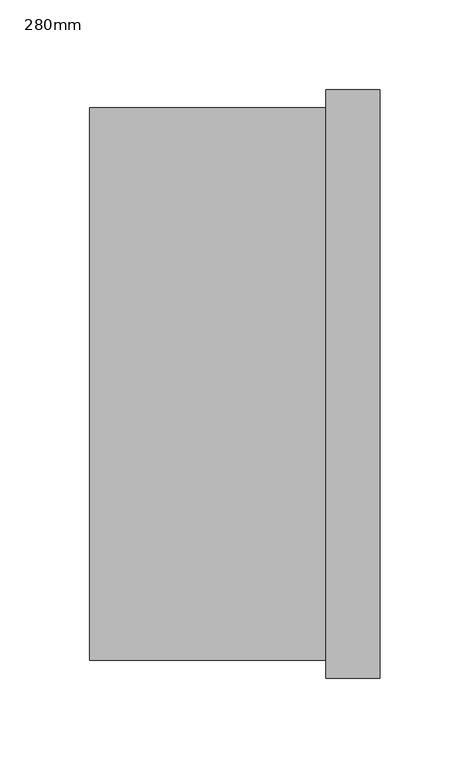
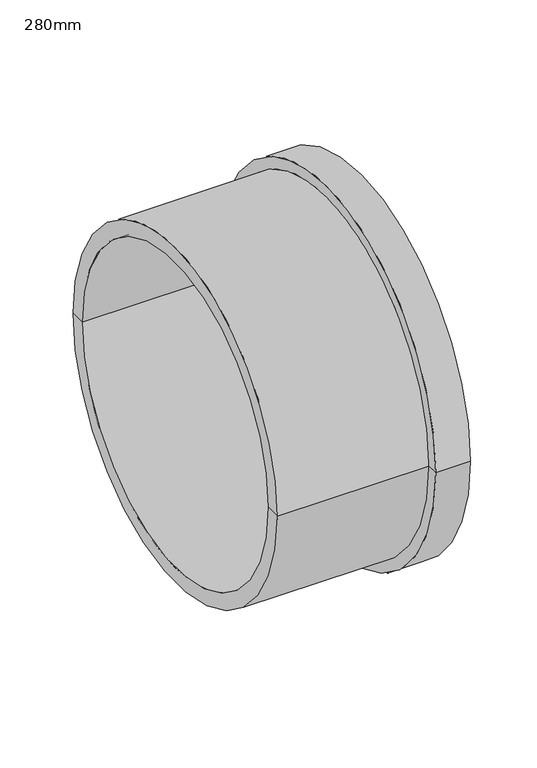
"""IFC4 building model written with IfcOpenShell, lengths in millimetres: pipe fitting geometry, Durapipe_PipeFitting_PVC_StubFlange : 280mm."""

import ifcopenshell
import ifcopenshell.guid

model = None  # the IFC model being written
_history = None  # IfcOwnerHistory: only IFC2X3 demands one
_inside = {}  # id of a spatial element -> (the spatial element, [elements in it])
_under = {}  # id of a project, library or spatial element -> (it, [spatial elements below it])
_declared = {}  # id of a project -> (the project, [libraries it declares])
_typed = {}  # id of a type object -> (the type object, [elements of that type])
_made_of = {}  # id of a material, layer set ... -> (it, [elements and type objects made of it])


def new_model(schema):
    """Start an empty IFC model of exactly this schema.

    Asked for "IFC4X3", IfcOpenShell would pick the latest addendum, in which some entities
    have other attributes; the version numbers below select the first issue.
    IFC2X3 requires an IfcOwnerHistory on every rooted entity: one is made here for all.
    """
    global model, _history
    if schema == "IFC4X3":
        model = ifcopenshell.file(schema_version=(4, 3, 0, 0))
    else:
        model = ifcopenshell.file(schema=schema)
    _inside.clear()
    _under.clear()
    _declared.clear()
    _typed.clear()
    _made_of.clear()
    _history = None
    if model.schema == "IFC2X3":
        org = make("IfcOrganization", Name="unknown")
        user = make(
            "IfcPersonAndOrganization",
            ThePerson=make("IfcPerson", FamilyName="unknown"),
            TheOrganization=org,
        )
        app = make(
            "IfcApplication",
            ApplicationDeveloper=org,
            Version="unknown",
            ApplicationFullName="unknown",
            ApplicationIdentifier="unknown",
        )
        _history = make(
            "IfcOwnerHistory",
            OwningUser=user,
            OwningApplication=app,
            ChangeAction="ADDED",
            CreationDate=0,
        )
    return model


def make(cls, **values):
    """One entity of the class cls with the attributes given. An attribute that is None is left unset."""
    return model.create_entity(
        cls, **{name: value for name, value in values.items() if value is not None}
    )


def rooted(cls, **values):
    """An entity with a GlobalId (a new one), such as an element, a storey or a relation."""
    return make(cls, GlobalId=ifcopenshell.guid.new(), OwnerHistory=_history, **values)


def si_unit(unit_type, name, prefix=None):
    """IfcSIUnit, for example si_unit("LENGTHUNIT", "METRE", prefix="MILLI")."""
    return make("IfcSIUnit", UnitType=unit_type, Prefix=prefix, Name=name)


def assignment(units):
    """IfcUnitAssignment: the units of a project."""
    return None if units is None else make("IfcUnitAssignment", Units=units)


def point(xyz):
    """IfcCartesianPoint."""
    return None if xyz is None else make("IfcCartesianPoint", Coordinates=xyz)


def direction(xyz):
    """IfcDirection."""
    return None if xyz is None else make("IfcDirection", DirectionRatios=xyz)


def frame(location, z_axis=None, x_axis=None):
    """IfcAxis2Placement3D, a coordinate frame: its origin and axes. An axis left out is left unset."""
    return make(
        "IfcAxis2Placement3D",
        Location=point(location),
        Axis=direction(z_axis),
        RefDirection=direction(x_axis),
    )


def origin():
    """The frame at (0, 0, 0) with its axes left unset."""
    return frame((0.0, 0.0, 0.0))


def place(relative_to, where):
    """IfcLocalPlacement: puts the frame where relative to a parent placement (None: the world)."""
    return make(
        "IfcLocalPlacement", PlacementRelTo=relative_to, RelativePlacement=where
    )


def context(
    kind, dimensions, precision=None, world=None, true_north=None, identifier=None
):
    """IfcGeometricRepresentationContext, for example the 3D "Model" context."""
    return make(
        "IfcGeometricRepresentationContext",
        ContextIdentifier=identifier,
        ContextType=kind,
        CoordinateSpaceDimension=dimensions,
        Precision=precision,
        WorldCoordinateSystem=world,
        TrueNorth=true_north,
    )


def project(units=None, contexts=None):
    """IfcProject with its units and contexts."""
    return rooted(
        "IfcProject",
        Name="project",
        RepresentationContexts=contexts,
        UnitsInContext=assignment(units),
    )


def spatial(cls, under=None, at=None, **own):
    """A site, building, storey or space (cls), placed at a placement, below another one or the project."""
    s = rooted(cls, ObjectPlacement=at, **own)
    if under is not None:
        _under.setdefault(under.id(), (under, []))[1].append(s)
    return s


def polyline(points):
    """IfcPolyline through the points."""
    return make("IfcPolyline", Points=[point(p) for p in points])


def circle_curve(where, radius):
    """IfcCircle in the frame where."""
    return make("IfcCircle", Position=where, Radius=radius)


def shape(context_of_items, identifier, shape_type, items):
    """IfcShapeRepresentation: the items that make up one representation, for example the "Body"."""
    return make(
        "IfcShapeRepresentation",
        ContextOfItems=context_of_items,
        RepresentationIdentifier=identifier,
        RepresentationType=shape_type,
        Items=items,
    )


def source(mapping_origin, context_of_items, identifier, shape_type, items):
    """IfcRepresentationMap: a shape defined once, which mapped items show again and again."""
    return make(
        "IfcRepresentationMap",
        MappingOrigin=mapping_origin,
        MappedRepresentation=shape(context_of_items, identifier, shape_type, items),
    )


def transform(
    local_origin,
    x_axis=None,
    y_axis=None,
    z_axis=None,
    scale=None,
    scale2=None,
    scale3=None,
    uniform=True,
):
    """IfcCartesianTransformationOperator3D, or its non-uniform kind. x_axis, y_axis, z_axis: its Axis1, 2, 3."""
    if uniform:
        return make(
            "IfcCartesianTransformationOperator3D",
            Axis1=direction(x_axis),
            Axis2=direction(y_axis),
            LocalOrigin=point(local_origin),
            Scale=scale,
            Axis3=direction(z_axis),
        )
    return make(
        "IfcCartesianTransformationOperator3DnonUniform",
        Axis1=direction(x_axis),
        Axis2=direction(y_axis),
        LocalOrigin=point(local_origin),
        Scale=scale,
        Axis3=direction(z_axis),
        Scale2=scale2,
        Scale3=scale3,
    )


def mapped(mapping_source, mapping_target):
    """IfcMappedItem: shows the shape of a source again, moved by a transform."""
    return make(
        "IfcMappedItem", MappingSource=mapping_source, MappingTarget=mapping_target
    )


def made_of(thing, what):
    """Note that an element or type object is made of a material, layer set ...; save() writes the relation."""
    if what is not None:
        _made_of.setdefault(what.id(), (what, []))[1].append(thing)
    return thing


def element(
    cls,
    number,
    at=None,
    inside=None,
    cuts=None,
    type_object=None,
    material=None,
    context=None,
    identifier="Body",
    shape_type=None,
    held_by="IfcProductDefinitionShape",
    body=None,
    shapes=None,
    **own,
):
    """One element of the class cls, such as IfcWall. Its Tag is "e" and its number.

    at: its placement. inside: the storey or other place that contains it. cuts: it is an
    opening in that element (IfcRelVoidsElement). A single representation is given by context,
    identifier, shape_type and body (its items); several are given by shapes. held_by: the class
    of the entity that holds the representations. save() writes the other relations.
    """
    e = rooted(cls, Tag="e%d" % number, ObjectPlacement=at, **own)
    if body is not None:
        shapes = [shape(context, identifier, shape_type, body)]
    if shapes is not None:
        e.Representation = make(held_by, Representations=shapes)
    if inside is not None:
        _inside.setdefault(inside.id(), (inside, []))[1].append(e)
    if cuts is not None:
        rooted(
            "IfcRelVoidsElement", RelatingBuildingElement=cuts, RelatedOpeningElement=e
        )
    if type_object is not None:
        _typed.setdefault(type_object.id(), (type_object, []))[1].append(e)
    return made_of(e, material)


def aggregate(whole, parts):
    """IfcRelAggregates: a whole, such as a stair, and the parts it consists of."""
    return rooted("IfcRelAggregates", RelatingObject=whole, RelatedObjects=parts)


def save(model, path):
    """Write the relations noted so far, then the file.

    IfcRelAggregates (storeys below a building ...), IfcRelContainedInSpatialStructure (elements
    in a storey), IfcRelDefinesByType, IfcRelAssociatesMaterial and IfcRelDeclares: one each for
    every whole, place, type object, material and project.
    """
    for whole, parts in _under.values():
        aggregate(whole, parts)
    for where, things in _inside.values():
        rooted(
            "IfcRelContainedInSpatialStructure",
            RelatedElements=things,
            RelatingStructure=where,
        )
    for kind, things in _typed.values():
        rooted("IfcRelDefinesByType", RelatedObjects=things, RelatingType=kind)
    for what, things in _made_of.values():
        rooted("IfcRelAssociatesMaterial", RelatedObjects=things, RelatingMaterial=what)
    for by, libraries in _declared.values():
        rooted("IfcRelDeclares", RelatingContext=by, RelatedDefinitions=libraries)
    model.write(path)


def plane_surface(at):
    """IfcPlane: the flat surface through the origin of the frame at, square to its z axis."""
    return make("IfcPlane", Position=at)


def cylinder_surface(at, radius):
    """IfcCylindricalSurface: all points at the distance radius from the z axis of the frame at."""
    return make("IfcCylindricalSurface", Position=at, Radius=radius)


def revolved_surface(curve, axis_point, axis_direction):
    """IfcSurfaceOfRevolution: the curve turned about the line through axis_point along axis_direction."""
    return make(
        "IfcSurfaceOfRevolution",
        SweptCurve=make("IfcArbitraryOpenProfileDef", ProfileType="CURVE", Curve=curve),
        AxisPosition=make("IfcAxis1Placement", Location=point(axis_point), Axis=direction(axis_direction)),
    )


def advanced_brep(points, edges, surfaces, faces):
    """IfcAdvancedBrep: a solid bounded by faces that lie on surfaces and meet in shared edges.

    An edge is (start, end): straight between two places in points (the first is 0);
    or (start, end, curve); or (start, end, curve, False) where it runs against its curve.
    A face is (place in surfaces, loops), or (place, loops, False) where it looks against
    its surface's normal. A loop lists edges by number (the first is 1), with a minus sign
    where the edge is run from its end to its start. The first loop is the outer one.
    """
    corners = [point(p) for p in points]
    vertices = [make("IfcVertexPoint", VertexGeometry=c) for c in corners]
    made = []
    for start, end, *more in edges:
        made.append(
            make(
                "IfcEdgeCurve",
                EdgeStart=vertices[start],
                EdgeEnd=vertices[end],
                EdgeGeometry=more[0] if more else make("IfcPolyline", Points=[corners[start], corners[end]]),
                SameSense=more[1] if len(more) > 1 else True,
            )
        )
    hull = []
    for where, loops, *sense in faces:
        bounds = []
        for j, loop in enumerate(loops):
            ring = [make("IfcOrientedEdge", EdgeElement=made[abs(k) - 1], Orientation=k > 0) for k in loop]
            bounds.append(
                make(
                    "IfcFaceOuterBound" if j == 0 else "IfcFaceBound",
                    Bound=make("IfcEdgeLoop", EdgeList=ring),
                    Orientation=True,
                )
            )
        hull.append(make("IfcAdvancedFace", Bounds=bounds, FaceSurface=surfaces[where], SameSense=sense[0] if sense else True))
    return make("IfcAdvancedBrep", Outer=make("IfcClosedShell", CfsFaces=hull))


def pipe_fitting_280mm_290d82b5(model_context):
    return source(origin(), model_context, "Body", "AdvancedBrep", [
        advanced_brep(
        [(80.75, -163.5, 0.0), (80.75, 163.5, 0.0), (80.75, 160.0, 0.0), (80.75, -160.0, 0.0), (80.75, 125.0, 0.0), (80.75, -125.0, 0.0), (80.75, -156.2720779, 0.0), (80.75, 156.2720779, 0.0), (50.75, -163.5, 0.0), (50.75, 163.5, 0.0), (50.75, -153.5, 0.0), (50.75, 153.5, 0.0), (-80.75, -153.5, 0.0), (-80.75, 153.5, 0.0), (-80.75, -140.0, 0.0), (-80.75, 140.0, 0.0), (66.25, 125.0, 0.0), (66.25, -125.0, 0.0), (66.25, -140.0, 0.0), (66.25, 140.0, 0.0), (80.75, 157.5147186, 0.0), (79.25, 156.8933983, 0.0), (79.25, -156.8933983, 0.0), (80.75, -157.5147186, 0.0), (79.25, -158.136039, 0.0), (79.25, 158.136039, 0.0), (80.75, -158.7573593, 0.0), (80.75, 158.7573593, 0.0), (79.25, -159.3786797, 0.0), (79.25, 159.3786797, 0.0)],
        [
            (0, 1, circle_curve(frame((80.75, 0.0, 0.0), z_axis=(1.0, 0.0, 0.0), x_axis=(0.0, 1.0, 0.0)), 163.5)),
            (1, 2),
            (2, 3, circle_curve(frame((80.75, 0.0, 0.0), z_axis=(-1.0, 0.0, 0.0), x_axis=(0.0, -1.0, 0.0)), 160.0)),
            (3, 0),
            (4, 5, circle_curve(frame((80.75, 0.0, 0.0), z_axis=(-1.0, 0.0, 0.0), x_axis=(0.0, 1.0, 0.0)), 125.0)),
            (5, 6),
            (6, 7, circle_curve(frame((80.75, 0.0, 0.0), z_axis=(1.0, 0.0, 0.0), x_axis=(0.0, -1.0, 0.0)), 156.2720779)),
            (7, 4),
            (1, 0, circle_curve(frame((80.75, 0.0, 0.0), z_axis=(1.0, 0.0, 0.0), x_axis=(0.0, 1.0, 0.0)), 163.5)),
            (3, 2, circle_curve(frame((80.75, 0.0, 0.0), z_axis=(-1.0, 0.0, 0.0), x_axis=(0.0, 1.0, 0.0)), 160.0)),
            (5, 4, circle_curve(frame((80.75, 0.0, 0.0), z_axis=(-1.0, 0.0, 0.0), x_axis=(0.0, 1.0, 0.0)), 125.0)),
            (7, 6, circle_curve(frame((80.75, 0.0, 0.0), z_axis=(1.0, 0.0, 0.0), x_axis=(0.0, 1.0, 0.0)), 156.2720779)),
            (0, 8),
            (8, 9, circle_curve(frame((50.75, 0.0, 0.0), z_axis=(1.0, 0.0, 0.0), x_axis=(0.0, 1.0, 0.0)), 163.5)),
            (9, 1),
            (9, 8, circle_curve(frame((50.75, 0.0, 0.0), z_axis=(1.0, 0.0, 0.0), x_axis=(0.0, 1.0, 0.0)), 163.5)),
            (8, 10),
            (10, 11, circle_curve(frame((50.75, 0.0, 0.0), z_axis=(1.0, 0.0, 0.0), x_axis=(0.0, 1.0, 0.0)), 153.5)),
            (11, 9),
            (11, 10, circle_curve(frame((50.75, 0.0, 0.0), z_axis=(1.0, 0.0, 0.0), x_axis=(0.0, 1.0, 0.0)), 153.5)),
            (10, 12),
            (12, 13, circle_curve(frame((-80.75, 0.0, 0.0), z_axis=(1.0, 0.0, 0.0), x_axis=(0.0, 1.0, 0.0)), 153.5)),
            (13, 11),
            (13, 12, circle_curve(frame((-80.75, 0.0, 0.0), z_axis=(1.0, 0.0, 0.0), x_axis=(0.0, 1.0, 0.0)), 153.5)),
            (12, 14),
            (14, 15, circle_curve(frame((-80.75, 0.0, 0.0), z_axis=(1.0, 0.0, 0.0), x_axis=(0.0, 1.0, 0.0)), 140.0)),
            (15, 13),
            (15, 14, circle_curve(frame((-80.75, 0.0, 0.0), z_axis=(1.0, 0.0, 0.0), x_axis=(0.0, 1.0, 0.0)), 140.0)),
            (4, 16),
            (16, 17, circle_curve(frame((66.25, 0.0, 0.0), z_axis=(-1.0, 0.0, 0.0), x_axis=(0.0, 1.0, 0.0)), 125.0)),
            (17, 5),
            (17, 16, circle_curve(frame((66.25, 0.0, 0.0), z_axis=(-1.0, 0.0, 0.0), x_axis=(0.0, 1.0, 0.0)), 125.0)),
            (14, 18),
            (18, 19, circle_curve(frame((66.25, 0.0, 0.0), z_axis=(1.0, 0.0, 0.0), x_axis=(0.0, 1.0, 0.0)), 140.0)),
            (19, 15),
            (19, 18, circle_curve(frame((66.25, 0.0, 0.0), z_axis=(1.0, 0.0, 0.0), x_axis=(0.0, 1.0, 0.0)), 140.0)),
            (18, 17),
            (16, 19),
            (20, 21),
            (21, 22, circle_curve(frame((79.25, 0.0, 0.0), z_axis=(-1.0, 0.0, 0.0), x_axis=(0.0, -1.0, 0.0)), 156.8933983)),
            (22, 23),
            (23, 20, circle_curve(frame((80.75, 0.0, 0.0), z_axis=(1.0, 0.0, 0.0), x_axis=(0.0, -1.0, 0.0)), 157.5147186)),
            (23, 24),
            (24, 25, circle_curve(frame((79.25, 0.0, 0.0), z_axis=(1.0, 0.0, 0.0), x_axis=(0.0, -1.0, 0.0)), 158.136039)),
            (25, 20),
            (24, 26),
            (26, 27, circle_curve(frame((80.75, 0.0, 0.0), z_axis=(1.0, 0.0, 0.0), x_axis=(0.0, -1.0, 0.0)), 158.7573593)),
            (27, 25),
            (26, 28),
            (28, 29, circle_curve(frame((79.25, 0.0, 0.0), z_axis=(1.0, 0.0, 0.0), x_axis=(0.0, -1.0, 0.0)), 159.3786797)),
            (29, 27),
            (28, 3),
            (2, 29),
            (21, 7),
            (6, 22),
            (20, 23, circle_curve(frame((80.75, 0.0, 0.0), z_axis=(1.0, 0.0, 0.0), x_axis=(0.0, 1.0, 0.0)), 157.5147186)),
            (22, 21, circle_curve(frame((79.25, 0.0, 0.0), z_axis=(-1.0, 0.0, 0.0), x_axis=(0.0, 1.0, 0.0)), 156.8933983)),
            (25, 24, circle_curve(frame((79.25, 0.0, 0.0), z_axis=(1.0, 0.0, 0.0), x_axis=(0.0, 1.0, 0.0)), 158.136039)),
            (27, 26, circle_curve(frame((80.75, 0.0, 0.0), z_axis=(1.0, 0.0, 0.0), x_axis=(0.0, 1.0, 0.0)), 158.7573593)),
            (29, 28, circle_curve(frame((79.25, 0.0, 0.0), z_axis=(1.0, 0.0, 0.0), x_axis=(0.0, 1.0, 0.0)), 159.3786797)),
        ],
        [
            plane_surface(frame((80.75, 0.0, 0.0), z_axis=(1.0, 0.0, 0.0), x_axis=(0.0, 1.0, 0.0))),
            cylinder_surface(frame((83.8535546, 0.0, 0.0), z_axis=(-1.0, 0.0, 0.0), x_axis=(0.0, 1.0, 0.0)), 163.5),
            plane_surface(frame((50.75, 0.0, 0.0), z_axis=(-1.0, 0.0, 0.0), x_axis=(0.0, 1.0, 0.0))),
            cylinder_surface(frame((83.8535546, 0.0, 0.0), z_axis=(-1.0, 0.0, 0.0), x_axis=(0.0, 1.0, 0.0)), 153.5),
            plane_surface(frame((-80.75, 0.0, 0.0), z_axis=(-1.0, 0.0, 0.0), x_axis=(0.0, 1.0, 0.0))),
            revolved_surface(polyline([(66.25, 125.0, 0.0), (80.75, 125.0, 0.0)]), (83.8535546, 0.0, 0.0), (-1.0, 0.0, 0.0)),
            revolved_surface(polyline([(-80.75, 140.0, 0.0), (66.25000000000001, 140.0, 0.0)]), (-82.5750714, 0.0, 0.0), (-1.0, 0.0, 0.0)),
            plane_surface(frame((66.25, 0.0, 0.0), z_axis=(-1.0, 0.0, 0.0), x_axis=(0.0, 1.0, 0.0))),
            revolved_surface(polyline([(80.75, -157.5147186, 0.0), (79.25, -156.8933983, 0.0)]), (80.75, 0.0, 0.0), (1.0, 0.0, 0.0)),
            revolved_surface(polyline([(79.25, -158.136039, 0.0), (80.75, -157.5147186, 0.0)]), (80.75, 0.0, 0.0), (1.0, 0.0, 0.0)),
            revolved_surface(polyline([(80.75, -158.7573593, 0.0), (79.25, -158.136039, 0.0)]), (80.75, 0.0, 0.0), (1.0, 0.0, 0.0)),
            revolved_surface(polyline([(79.25, -159.3786797, 0.0), (80.75, -158.7573593, 0.0)]), (80.75, 0.0, 0.0), (1.0, 0.0, 0.0)),
            revolved_surface(polyline([(80.75, -160.0, 0.0), (79.25, -159.3786797, 0.0)]), (80.75, 0.0, 0.0), (1.0, 0.0, 0.0)),
            revolved_surface(polyline([(79.25, -156.8933983, 0.0), (80.75, -156.2720779, 0.0)]), (80.75, 0.0, 0.0), (1.0, 0.0, 0.0)),
            revolved_surface(polyline([(80.75, 157.5147186, 0.0), (79.25, 156.8933983, 0.0)]), (80.75, 0.0, 0.0), (1.0, 0.0, 0.0)),
            revolved_surface(polyline([(79.25, 158.136039, 0.0), (80.75, 157.5147186, 0.0)]), (80.75, 0.0, 0.0), (1.0, 0.0, 0.0)),
            revolved_surface(polyline([(80.75, 158.7573593, 0.0), (79.25, 158.136039, 0.0)]), (80.75, 0.0, 0.0), (1.0, 0.0, 0.0)),
            revolved_surface(polyline([(79.25, 159.3786797, 0.0), (80.75, 158.7573593, 0.0)]), (80.75, 0.0, 0.0), (1.0, 0.0, 0.0)),
            revolved_surface(polyline([(80.75, 160.0, 0.0), (79.25, 159.3786797, 0.0)]), (80.75, 0.0, 0.0), (1.0, 0.0, 0.0)),
            revolved_surface(polyline([(79.25, 156.8933983, 0.0), (80.75, 156.2720779, 0.0)]), (80.75, 0.0, 0.0), (1.0, 0.0, 0.0)),
        ],
        [
            (0, [[1, 2, 3, 4]]),
            (0, [[5, 6, 7, 8]]),
            (0, [[9, -4, 10, -2]]),
            (0, [[11, -8, 12, -6]]),
            (1, [[-1, 13, 14, 15]]),
            (1, [[-9, -15, 16, -13]]),
            (2, [[-14, 17, 18, 19]]),
            (2, [[-16, -19, 20, -17]]),
            (3, [[-18, 21, 22, 23]]),
            (3, [[-20, -23, 24, -21]]),
            (4, [[-22, 25, 26, 27]]),
            (4, [[-24, -27, 28, -25]]),
            (5, [[-5, 29, 30, 31]]),
            (5, [[-11, -31, 32, -29]]),
            (6, [[33, 34, 35, -26]]),
            (6, [[-33, -28, -35, 36]]),
            (7, [[-34, 37, -30, 38]]),
            (7, [[-36, -38, -32, -37]]),
            (8, [[39, 40, 41, 42]]),
            (9, [[-42, 43, 44, 45]]),
            (10, [[-44, 46, 47, 48]]),
            (11, [[-47, 49, 50, 51]]),
            (12, [[-50, 52, -3, 53]]),
            (13, [[-40, 54, -7, 55]]),
            (14, [[-39, 56, -41, 57]]),
            (15, [[-45, 58, -43, -56]]),
            (16, [[-48, 59, -46, -58]]),
            (17, [[-51, 60, -49, -59]]),
            (18, [[-53, -10, -52, -60]]),
            (19, [[-54, -57, -55, -12]]),
        ],
    ),
    ])


if __name__ == "__main__":
    model = new_model("IFC4")
    model_context = context("Model", 3, world=origin())
    ifc_project = project(units=[si_unit("LENGTHUNIT", "METRE", prefix="MILLI")], contexts=[model_context])
    site = spatial("IfcSite", under=ifc_project)
    building = spatial("IfcBuilding", under=site)
    placement = place(None, origin())
    pipe_fitting_280mm_shape = pipe_fitting_280mm_290d82b5(model_context)
    element("IfcPipeFitting", 1, ObjectType="Durapipe_PipeFitting_PVC_StubFlange : 280mm", at=placement, inside=building, context=model_context, shape_type="MappedRepresentation", body=[
        mapped(pipe_fitting_280mm_shape, transform((0.0, 0.0, 0.0), x_axis=(1.0, 0.0, 0.0), y_axis=(0.0, 1.0, 0.0), z_axis=(0.0, 0.0, 1.0))),
    ])
    save(model, "model.ifc")
